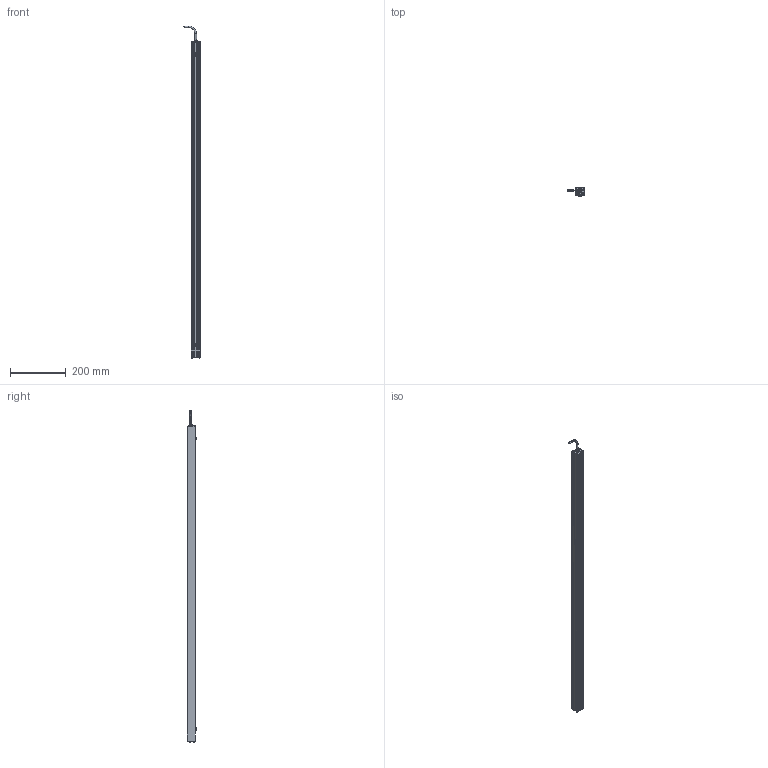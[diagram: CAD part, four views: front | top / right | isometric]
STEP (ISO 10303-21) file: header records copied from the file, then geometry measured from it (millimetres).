
FILE_DESCRIPTION (( 'STEP AP214' ), '1' );
FILE_NAME ('AL150XXXX_AL150258.stp', '2021-04-29T15:41:31', ( '' ), ( '' ), 'SwSTEP 2.0', 'SolidWorks 2018', '' );
FILE_SCHEMA (( 'AUTOMOTIVE_DESIGN' ));
Length unit declared in the file: inch
Products named in the file (12): 093145_93701A253; 150-03-006-XXXX_150-03-006-258; 092408_TRUNCATED; 150-01-005-XXX_150-01-005-258; Part1^AL150XXXX; 116-02-006; CHM6x8_91460A312; 116-02-007; 1157 (no strap); HN-M6_90592A016; Part2^AL150XXXX; AL150XXXX_AL150258
Assembly tree (18 placements, depth 2):
  Part1^AL150XXXX
  Part2^AL150XXXX
  AL150XXXX_AL150258
    150-01-005-XXX_150-01-005-258
    116-02-006
    093145_93701A253  x8
    HN-M6_90592A016  x2
    CHM6x8_91460A312  x2
    150-03-006-XXXX_150-03-006-258
    116-02-007
    1157 (no strap)
    092408_TRUNCATED
Bounding box: 60.68 x 33.84 x 1189.79 mm (x, y, z)
Volume: 352563.7 mm3; surface area: 373852.5 mm2
Topology: 26 solids, 26 shells, 1306 faces, 3436 edges, 2127 vertices
Faces by surface type: cylinder 805, cone 249, plane 153, torus 59, bspline 32, sphere 8
Entity records: 18285 total; most frequent: CARTESIAN_POINT 6069, ORIENTED_EDGE 2496, DIRECTION 2311, EDGE_CURVE 1248, AXIS2_PLACEMENT_3D 881, VERTEX_POINT 800, VECTOR 549, LINE 549
